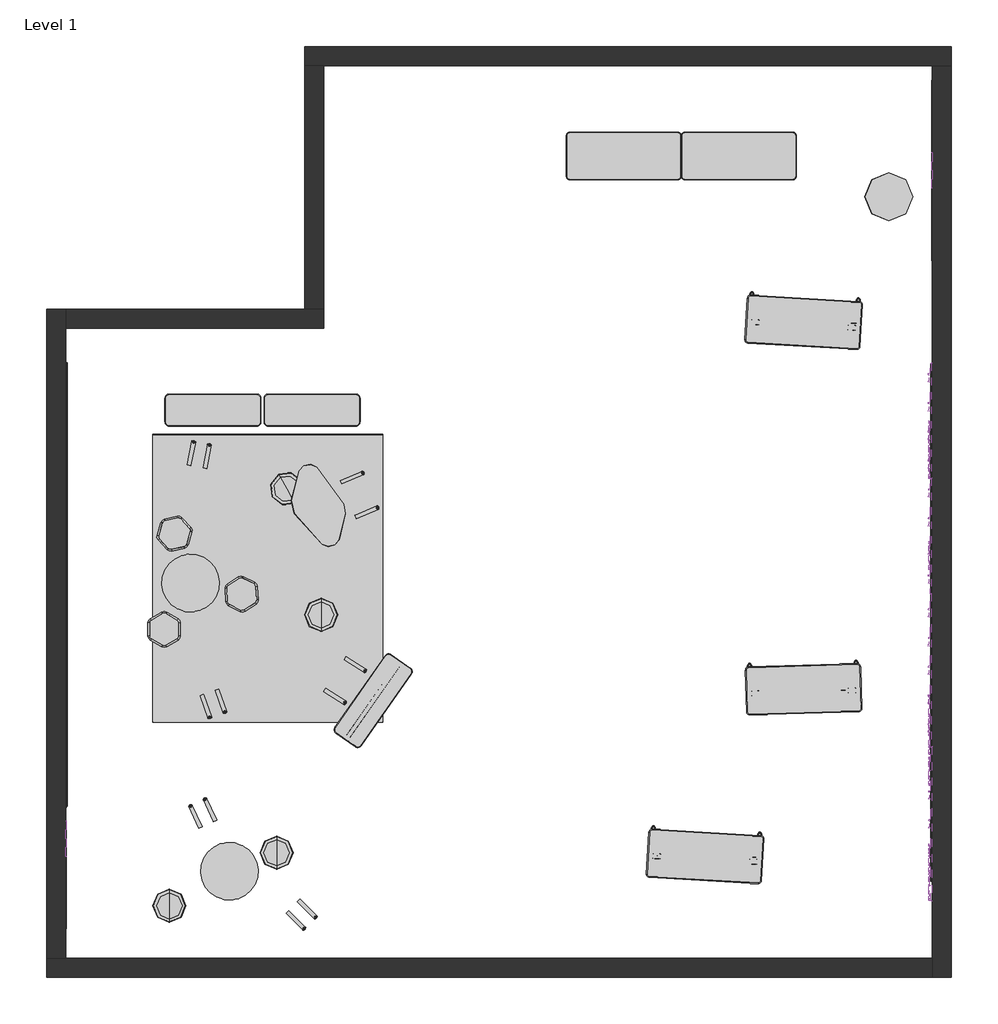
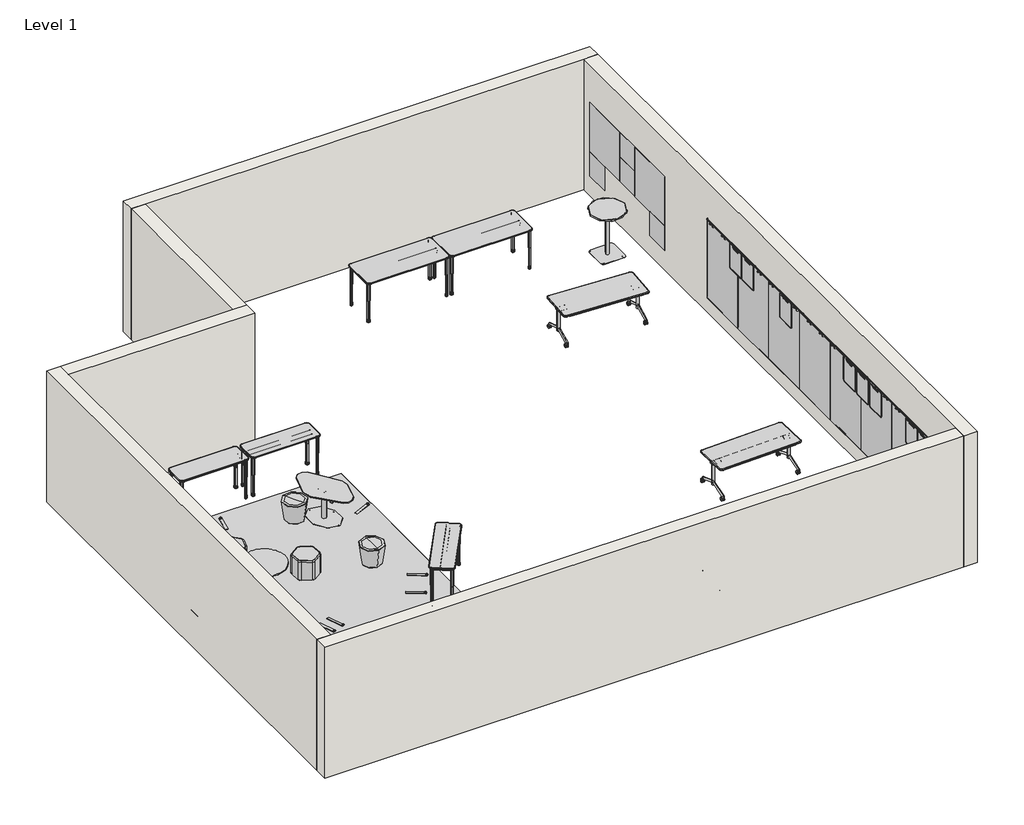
# One storey, incomplete: 60 furniture elements, 6 walls.
"""IFC4 building model written with IfcOpenShell, lengths in millimetres."""

from ifc_helpers import new_model, si_unit, origin, origin_with_axes, place, context, project, spatial, polyline, outline, extrude, faceted_brep, transform, mapped, element, save
from components import furniture_a024421f, furniture_88b691dc, furniture_9e63f0ef, furniture_12ft_x_15ft_39e2fe84, furniture_30dia_f6c6dedf, furniture_f241dce0, furniture_60w_86c895c0, furniture_60w_a7632f70, furniture_60w_52230fc8, furniture_72w_ccfdfc9f, furniture_72w_c9b032af, furniture_72w_486bea29, double_ea325dfb, large_square_09cbe10d, ottoman_1566a61f, polyvision_accessory_board_flow_frameless_ff3bc2d3, polyvision_accessory_board_flow_frameless_59350ed7, polyvision_accessory_board_flow_frameless_2d1106f9, single_6dff62dc, single_8f184688, small_square_b37b69ca, steelcase_am_accessory_board_personalwhiteboard_660ad885, steelcase_am_accessory_board_walltrack_6ft_874cfd16, steelcase_am_accessory_board_walltrack_8ft_30a8a2b9, stool_93acecdb

model = new_model("IFC4")

# Units and contexts
model_context = context("Model", 3, world=origin())
ifc_project = project(units=[si_unit("LENGTHUNIT", "METRE", prefix="MILLI")], contexts=[model_context])

# Site, building, storey
site = spatial("IfcSite", under=ifc_project)
building = spatial("IfcBuilding", under=site)
storey = spatial("IfcBuildingStorey", under=building, Name="Level 1", Elevation=0.0)

# Furniture
placement = place(None, origin())
furniture_shape = furniture_a024421f(model_context)
furniture_2_shape = furniture_88b691dc(model_context)
element("IfcFurniture", 1, ObjectType="SmithSystem_AM_Table_Education_Elemental_NestAndFold_30D : 30D x 72W", at=placement, inside=storey, context=model_context, shape_type="MappedRepresentation", body=[
    mapped(furniture_shape, transform((-34523.3783548, -123922.868873, 0.0), x_axis=(0.9983033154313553, -0.05822791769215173, 0.0), y_axis=(0.05822791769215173, 0.9983033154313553, 0.0), z_axis=(0.0, 0.0, 1.0))),
    mapped(furniture_2_shape, transform((-34523.3783548, -123922.868873, 0.0), x_axis=(0.9983033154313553, -0.05822791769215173, 0.0), y_axis=(0.05822791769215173, 0.9983033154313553, 0.0), z_axis=(0.0, 0.0, 1.0))),
])
element("IfcFurniture", 2, ObjectType="SmithSystem_AM_Table_Education_Elemental_NestAndFold_30D : 30D x 72W", at=placement, inside=storey, context=model_context, shape_type="MappedRepresentation", body=[
    mapped(furniture_shape, transform((-34558.4775542, -129834.7711895, 0.0), x_axis=(0.9995793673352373, 0.029001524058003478, 0.0), y_axis=(-0.029001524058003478, 0.9995793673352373, 0.0), z_axis=(0.0, 0.0, 1.0))),
    mapped(furniture_2_shape, transform((-34558.4775542, -129834.7711895, 0.0), x_axis=(0.9995793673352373, 0.029001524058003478, 0.0), y_axis=(-0.029001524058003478, 0.9995793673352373, 0.0), z_axis=(0.0, 0.0, 1.0))),
])
element("IfcFurniture", 3, ObjectType="SmithSystem_AM_Table_Education_Elemental_NestAndFold_30D : 30D x 72W", at=placement, inside=storey, context=model_context, shape_type="MappedRepresentation", body=[
    mapped(furniture_shape, transform((-36088.8899738, -132410.3183376, 0.0), x_axis=(0.9983033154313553, -0.05822791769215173, 0.0), y_axis=(0.05822791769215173, 0.9983033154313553, 0.0), z_axis=(0.0, 0.0, 1.0))),
    mapped(furniture_2_shape, transform((-36088.8899738, -132410.3183376, 0.0), x_axis=(0.9983033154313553, -0.05822791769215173, 0.0), y_axis=(0.05822791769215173, 0.9983033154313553, 0.0), z_axis=(0.0, 0.0, 1.0))),
])
furniture_3_shape = furniture_9e63f0ef(model_context)
element("IfcFurniture", 4, ObjectType="SmithSystem_AM_Table_Education_Flowform_LearnLounge_OffsetRectangle : NoPower", at=placement, inside=storey, context=model_context, shape_type="MappedRepresentation", body=[
    mapped(furniture_3_shape, transform((-41350.8761529, -127273.2918155, 0.0), x_axis=(-0.309016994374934, 0.9510565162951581, 0.0), y_axis=(-0.9510565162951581, -0.309016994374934, 0.0), z_axis=(0.0, 0.0, 1.0))),
])
furniture_12ft_x_15ft_shape = furniture_12ft_x_15ft_39e2fe84(model_context)
element("IfcFurniture", 5, ObjectType="Coalesse_AM_Accessory_Rug_Nanimarquina_Mesh : 12ft x 15ft", at=placement, inside=storey, context=model_context, shape_type="MappedRepresentation", body=[
    mapped(furniture_12ft_x_15ft_shape, transform((-43175.961903, -130046.8984329, 0.0), x_axis=(0.0, 1.0, 0.0), y_axis=(-1.0, 0.0, 0.0), z_axis=(0.0, 0.0, 1.0))),
])
furniture_30dia_shape = furniture_30dia_f6c6dedf(model_context)
element("IfcFurniture", 6, ObjectType="Steelcase_AM_Table_Conference_SimpleTables_CafeHeight_Round : 30Dia", at=placement, inside=storey, context=model_context, shape_type="MappedRepresentation", body=[
    mapped(furniture_30dia_shape, transform((-32277.5097241, -122362.2697029, 0.0), x_axis=(1.0, 0.0, 0.0), y_axis=(0.0, 1.0, 0.0), z_axis=(0.0, 0.0, 1.0))),
])
furniture_4_shape = furniture_f241dce0(model_context)
element("IfcFurniture", 7, ObjectType="Editable3DSnapper : 36\" x 36\"", at=placement, inside=storey, context=model_context, shape_type="MappedRepresentation", body=[
    mapped(furniture_4_shape, transform((-43071.2715886, -133431.0343964, 403.9285785), x_axis=(0.9984032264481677, 0.05648891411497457, 0.0), y_axis=(-0.05648891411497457, 0.9984032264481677, 0.0), z_axis=(0.0, 0.0, 1.0))),
])
element("IfcFurniture", 8, ObjectType="Editable3DSnapper : 36\" x 36\"", at=placement, inside=storey, context=model_context, shape_type="MappedRepresentation", body=[
    mapped(furniture_4_shape, transform((-43688.4246596, -128852.7499414, 403.9285785), x_axis=(0.9984032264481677, 0.05648891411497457, 0.0), y_axis=(-0.05648891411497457, 0.9984032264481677, 0.0), z_axis=(0.0, 0.0, 1.0))),
])
furniture_60w_shape = furniture_60w_86c895c0(model_context)
furniture_60w_2_shape = furniture_60w_a7632f70(model_context)
furniture_60w_3_shape = furniture_60w_52230fc8(model_context)
element("IfcFurniture", 9, ObjectType="SmithSystem_AM_Table_Education_Interchange_Activity_20D : 60W", at=placement, inside=storey, context=model_context, shape_type="MappedRepresentation", body=[
    mapped(furniture_60w_shape, transform((-40701.7308167, -131139.6032442, 0.0), x_axis=(0.573578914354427, 0.8191503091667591, 0.0), y_axis=(-0.8191503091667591, 0.573578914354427, 0.0), z_axis=(0.0, 0.0, 1.0))),
    mapped(furniture_60w_2_shape, transform((-40701.7308167, -131139.6032442, 0.0), x_axis=(0.573578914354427, 0.8191503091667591, 0.0), y_axis=(-0.8191503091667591, 0.573578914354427, 0.0), z_axis=(0.0, 0.0, 1.0))),
    mapped(furniture_60w_3_shape, transform((-40701.7308167, -131139.6032442, 0.0), x_axis=(0.573578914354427, 0.8191503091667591, 0.0), y_axis=(-0.8191503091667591, 0.573578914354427, 0.0), z_axis=(0.0, 0.0, 1.0))),
])
element("IfcFurniture", 10, ObjectType="SmithSystem_AM_Table_Education_Interchange_Activity_20D : 60W", at=placement, inside=storey, context=model_context, shape_type="MappedRepresentation", body=[
    mapped(furniture_60w_shape, transform((-42206.2756142, -126006.1884392, 0.0), x_axis=(0.9999999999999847, 1.7543499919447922e-07, 0.0), y_axis=(-1.7543499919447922e-07, 0.9999999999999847, 0.0), z_axis=(0.0, 0.0, 1.0))),
    mapped(furniture_60w_2_shape, transform((-42206.2756142, -126006.1884392, 0.0), x_axis=(0.9999999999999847, 1.7543499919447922e-07, 0.0), y_axis=(-1.7543499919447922e-07, 0.9999999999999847, 0.0), z_axis=(0.0, 0.0, 1.0))),
    mapped(furniture_60w_3_shape, transform((-42206.2756142, -126006.1884392, 0.0), x_axis=(0.9999999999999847, 1.7543499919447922e-07, 0.0), y_axis=(-1.7543499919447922e-07, 0.9999999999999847, 0.0), z_axis=(0.0, 0.0, 1.0))),
])
element("IfcFurniture", 11, ObjectType="SmithSystem_AM_Table_Education_Interchange_Activity_20D : 60W", at=placement, inside=storey, context=model_context, shape_type="MappedRepresentation", body=[
    mapped(furniture_60w_shape, transform((-43781.0756142, -126006.1884392, 0.0), x_axis=(0.9999999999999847, 1.7543499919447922e-07, 0.0), y_axis=(-1.7543499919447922e-07, 0.9999999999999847, 0.0), z_axis=(0.0, 0.0, 1.0))),
    mapped(furniture_60w_2_shape, transform((-43781.0756142, -126006.1884392, 0.0), x_axis=(0.9999999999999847, 1.7543499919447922e-07, 0.0), y_axis=(-1.7543499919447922e-07, 0.9999999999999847, 0.0), z_axis=(0.0, 0.0, 1.0))),
    mapped(furniture_60w_3_shape, transform((-43781.0756142, -126006.1884392, 0.0), x_axis=(0.9999999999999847, 1.7543499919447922e-07, 0.0), y_axis=(-1.7543499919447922e-07, 0.9999999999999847, 0.0), z_axis=(0.0, 0.0, 1.0))),
])
furniture_72w_shape = furniture_72w_ccfdfc9f(model_context)
furniture_72w_2_shape = furniture_72w_c9b032af(model_context)
furniture_72w_3_shape = furniture_72w_486bea29(model_context)
element("IfcFurniture", 12, ObjectType="SmithSystem_AM_Table_Education_Interchange_Activity_30D : 72W", at=placement, inside=storey, context=model_context, shape_type="MappedRepresentation", body=[
    mapped(furniture_72w_shape, transform((-35577.1178066, -122094.9978859, 0.0), x_axis=(1.0, 0.0, 0.0), y_axis=(0.0, 1.0, 0.0), z_axis=(0.0, 0.0, 1.0))),
    mapped(furniture_72w_2_shape, transform((-35577.1178066, -122094.9978859, 0.0), x_axis=(1.0, 0.0, 0.0), y_axis=(0.0, 1.0, 0.0), z_axis=(0.0, 0.0, 1.0))),
    mapped(furniture_72w_3_shape, transform((-35577.1178066, -122094.9978859, 0.0), x_axis=(1.0, 0.0, 0.0), y_axis=(0.0, 1.0, 0.0), z_axis=(0.0, 0.0, 1.0))),
])
element("IfcFurniture", 13, ObjectType="SmithSystem_AM_Table_Education_Interchange_Activity_30D : 72W", at=placement, inside=storey, context=model_context, shape_type="MappedRepresentation", body=[
    mapped(furniture_72w_shape, transform((-37405.9178066, -122094.9978859, 0.0), x_axis=(1.0, 0.0, 0.0), y_axis=(0.0, 1.0, 0.0), z_axis=(0.0, 0.0, 1.0))),
    mapped(furniture_72w_2_shape, transform((-37405.9178066, -122094.9978859, 0.0), x_axis=(1.0, 0.0, 0.0), y_axis=(0.0, 1.0, 0.0), z_axis=(0.0, 0.0, 1.0))),
    mapped(furniture_72w_3_shape, transform((-37405.9178066, -122094.9978859, 0.0), x_axis=(1.0, 0.0, 0.0), y_axis=(0.0, 1.0, 0.0), z_axis=(0.0, 0.0, 1.0))),
])
double_shape = double_ea325dfb(model_context)
element("IfcFurniture", 14, ObjectType="SmithSystem_AM_Seating_Education_Flowform_LearnLounge_MobileKit_Double : Double", at=placement, inside=storey, context=model_context, shape_type="MappedRepresentation", body=[
    mapped(double_shape, transform((-40744.7101465, -127120.8624061, 0.0), x_axis=(0.39095136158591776, -0.9204113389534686, 0.0), y_axis=(0.9204113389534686, 0.39095136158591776, 0.0), z_axis=(0.0, 0.0, 1.0))),
])
element("IfcFurniture", 15, ObjectType="SmithSystem_AM_Seating_Education_Flowform_LearnLounge_MobileKit_Double : Double", at=placement, inside=storey, context=model_context, shape_type="MappedRepresentation", body=[
    mapped(double_shape, transform((-40967.3627503, -130017.8480217, 0.0), x_axis=(-0.5377355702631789, -0.8431135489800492, 0.0), y_axis=(0.8431135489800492, -0.5377355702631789, 0.0), z_axis=(0.0, 0.0, 1.0))),
])
large_square_shape = large_square_09cbe10d(model_context)
element("IfcFurniture", 16, ObjectType="PolyVision_Accessory_Board_Motif : Large Square", at=placement, inside=storey, context=model_context, shape_type="MappedRepresentation", body=[
    mapped(large_square_shape, transform((-45351.6696554, -133132.6697923, 930.8340763), x_axis=(1.0, 0.0, 0.0), y_axis=(0.0, 1.0, 0.0), z_axis=(0.0, 0.0, 1.0))),
])
element("IfcFurniture", 17, ObjectType="PolyVision_Accessory_Board_Motif : Large Square", at=placement, inside=storey, context=model_context, shape_type="MappedRepresentation", body=[
    mapped(large_square_shape, transform((-31595.7097241, -121370.9876579, 930.8340763), x_axis=(-1.0, 0.0, 0.0), y_axis=(0.0, -1.0, 0.0), z_axis=(0.0, 0.0, 1.0))),
])
element("IfcFurniture", 18, ObjectType="PolyVision_Accessory_Board_Motif : Large Square", at=placement, inside=storey, context=model_context, shape_type="MappedRepresentation", body=[
    mapped(large_square_shape, transform((-31595.7097241, -123092.9876579, 930.8340763), x_axis=(-1.0, 0.0, 0.0), y_axis=(0.0, -1.0, 0.0), z_axis=(0.0, 0.0, 1.0))),
])
ottoman_shape = ottoman_1566a61f(model_context)
element("IfcFurniture", 19, ObjectType="SmithSystem_AM_Seating_Education_Flowform_SoftSeating_Ottoman_Hexagon : Ottoman", at=placement, inside=storey, context=model_context, shape_type="MappedRepresentation", body=[
    mapped(ottoman_shape, transform((-43794.2476062, -129236.3954095, 0.0), x_axis=(1.0, 0.0, 0.0), y_axis=(0.0, 1.0, 0.0), z_axis=(0.0, 0.0, 1.0))),
])
element("IfcFurniture", 20, ObjectType="SmithSystem_AM_Seating_Education_Flowform_SoftSeating_Ottoman_Hexagon : Ottoman", at=placement, inside=storey, context=model_context, shape_type="MappedRepresentation", body=[
    mapped(ottoman_shape, transform((-42563.1847936, -128674.311676, 0.0), x_axis=(0.9984032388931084, 0.05648869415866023, 0.0), y_axis=(-0.05648869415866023, 0.9984032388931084, 0.0), z_axis=(0.0, 0.0, 1.0))),
])
element("IfcFurniture", 21, ObjectType="SmithSystem_AM_Seating_Education_Flowform_SoftSeating_Ottoman_Hexagon : Ottoman", at=placement, inside=storey, context=model_context, shape_type="MappedRepresentation", body=[
    mapped(ottoman_shape, transform((-43629.9969648, -127715.6087144, 0.0), x_axis=(0.956304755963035, -0.29237170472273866, 0.0), y_axis=(0.29237170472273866, 0.956304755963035, 0.0), z_axis=(0.0, 0.0, 1.0))),
])
polyvision_accessory_board_flow_frameless_shape = polyvision_accessory_board_flow_frameless_ff3bc2d3(model_context)
element("IfcFurniture", 22, ObjectType="PolyVision_Accessory_Board_Flow_Frameless : 47W x 72H (1185 W x 1830 H)", at=placement, inside=storey, context=model_context, shape_type="MappedRepresentation", body=[
    mapped(polyvision_accessory_board_flow_frameless_shape, transform((-31603.6162388, -125603.495818, 355.6), x_axis=(0.0, -1.0, 0.0), y_axis=(1.0, 0.0, 0.0), z_axis=(0.0, 0.0, 1.0))),
])
polyvision_accessory_board_flow_frameless_2_shape = polyvision_accessory_board_flow_frameless_59350ed7(model_context)
element("IfcFurniture", 23, ObjectType="PolyVision_Accessory_Board_Flow_Frameless : 47W x 72H (1185 W x 1830 H)", at=placement, inside=storey, context=model_context, shape_type="MappedRepresentation", body=[
    mapped(polyvision_accessory_board_flow_frameless_2_shape, transform((-31603.6162388, -126777.6302109, 355.6), x_axis=(0.0, -1.0, 0.0), y_axis=(1.0, 0.0, 0.0), z_axis=(0.0, 0.0, 1.0))),
])
element("IfcFurniture", 24, ObjectType="PolyVision_Accessory_Board_Flow_Frameless : 47W x 72H (1185 W x 1830 H)", at=placement, inside=storey, context=model_context, shape_type="MappedRepresentation", body=[
    mapped(polyvision_accessory_board_flow_frameless_2_shape, transform((-31603.6162388, -127951.7646037, 355.6), x_axis=(0.0, -1.0, 0.0), y_axis=(1.0, 0.0, 0.0), z_axis=(0.0, 0.0, 1.0))),
])
element("IfcFurniture", 25, ObjectType="PolyVision_Accessory_Board_Flow_Frameless : 47W x 72H (1185 W x 1830 H)", at=placement, inside=storey, context=model_context, shape_type="MappedRepresentation", body=[
    mapped(polyvision_accessory_board_flow_frameless_2_shape, transform((-31603.6162388, -129125.8989966, 355.6), x_axis=(0.0, -1.0, 0.0), y_axis=(1.0, 0.0, 0.0), z_axis=(0.0, 0.0, 1.0))),
])
element("IfcFurniture", 26, ObjectType="PolyVision_Accessory_Board_Flow_Frameless : 47W x 72H (1185 W x 1830 H)", at=placement, inside=storey, context=model_context, shape_type="MappedRepresentation", body=[
    mapped(polyvision_accessory_board_flow_frameless_2_shape, transform((-31603.6162388, -130300.0333895, 355.6), x_axis=(0.0, -1.0, 0.0), y_axis=(1.0, 0.0, 0.0), z_axis=(0.0, 0.0, 1.0))),
])
element("IfcFurniture", 27, ObjectType="PolyVision_Accessory_Board_Flow_Frameless : 47W x 72H (1185 W x 1830 H)", at=placement, inside=storey, context=model_context, shape_type="MappedRepresentation", body=[
    mapped(polyvision_accessory_board_flow_frameless_2_shape, transform((-31603.6162388, -131474.1677824, 355.6), x_axis=(0.0, -1.0, 0.0), y_axis=(1.0, 0.0, 0.0), z_axis=(0.0, 0.0, 1.0))),
])
element("IfcFurniture", 28, ObjectType="PolyVision_Accessory_Board_Flow_Frameless : 47W x 72H (1185 W x 1830 H)", at=placement, inside=storey, context=model_context, shape_type="MappedRepresentation", body=[
    mapped(polyvision_accessory_board_flow_frameless_2_shape, transform((-45343.1334262, -131457.7286422, 355.6), x_axis=(0.0, 1.0, 0.0), y_axis=(-1.0, 0.0, 0.0), z_axis=(0.0, 0.0, 1.0))),
])
element("IfcFurniture", 29, ObjectType="PolyVision_Accessory_Board_Flow_Frameless : 47W x 72H (1185 W x 1830 H)", at=placement, inside=storey, context=model_context, shape_type="MappedRepresentation", body=[
    mapped(polyvision_accessory_board_flow_frameless_2_shape, transform((-45343.1334262, -130283.5942493, 355.6), x_axis=(0.0, 1.0, 0.0), y_axis=(-1.0, 0.0, 0.0), z_axis=(0.0, 0.0, 1.0))),
])
element("IfcFurniture", 30, ObjectType="PolyVision_Accessory_Board_Flow_Frameless : 47W x 72H (1185 W x 1830 H)", at=placement, inside=storey, context=model_context, shape_type="MappedRepresentation", body=[
    mapped(polyvision_accessory_board_flow_frameless_2_shape, transform((-45343.1334262, -129109.4598565, 355.6), x_axis=(0.0, 1.0, 0.0), y_axis=(-1.0, 0.0, 0.0), z_axis=(0.0, 0.0, 1.0))),
])
element("IfcFurniture", 31, ObjectType="PolyVision_Accessory_Board_Flow_Frameless : 47W x 72H (1185 W x 1830 H)", at=placement, inside=storey, context=model_context, shape_type="MappedRepresentation", body=[
    mapped(polyvision_accessory_board_flow_frameless_2_shape, transform((-45343.1334262, -127935.3254636, 355.6), x_axis=(0.0, 1.0, 0.0), y_axis=(-1.0, 0.0, 0.0), z_axis=(0.0, 0.0, 1.0))),
])
element("IfcFurniture", 32, ObjectType="PolyVision_Accessory_Board_Flow_Frameless : 47W x 72H (1185 W x 1830 H)", at=placement, inside=storey, context=model_context, shape_type="MappedRepresentation", body=[
    mapped(polyvision_accessory_board_flow_frameless_2_shape, transform((-45343.1334262, -126761.1910707, 355.6), x_axis=(0.0, 1.0, 0.0), y_axis=(-1.0, 0.0, 0.0), z_axis=(0.0, 0.0, 1.0))),
])
polyvision_accessory_board_flow_frameless_3_shape = polyvision_accessory_board_flow_frameless_2d1106f9(model_context)
element("IfcFurniture", 33, ObjectType="PolyVision_Accessory_Board_Flow_Frameless : 47W x 72H (1185 W x 1830 H)", at=placement, inside=storey, context=model_context, shape_type="MappedRepresentation", body=[
    mapped(polyvision_accessory_board_flow_frameless_3_shape, transform((-31603.6162388, -132648.3021752, 355.6), x_axis=(0.0, -1.0, 0.0), y_axis=(1.0, 0.0, 0.0), z_axis=(0.0, 0.0, 1.0))),
])
element("IfcFurniture", 34, ObjectType="PolyVision_Accessory_Board_Flow_Frameless : 47W x 72H (1185 W x 1830 H)", at=placement, inside=storey, context=model_context, shape_type="MappedRepresentation", body=[
    mapped(polyvision_accessory_board_flow_frameless_3_shape, transform((-45343.1334262, -125587.0566779, 355.6), x_axis=(0.0, 1.0, 0.0), y_axis=(-1.0, 0.0, 0.0), z_axis=(0.0, 0.0, 1.0))),
])
single_shape = single_6dff62dc(model_context)
element("IfcFurniture", 35, ObjectType="SmithSystem_AM_Seating_Education_Flowform_LearnLounge_MobileKit_Single : Single", at=placement, inside=storey, context=model_context, shape_type="MappedRepresentation", body=[
    mapped(single_shape, transform((-43175.0914362, -132172.9793308, 0.0), x_axis=(0.9063078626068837, 0.4226180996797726, 0.0), y_axis=(-0.4226180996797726, 0.9063078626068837, 0.0), z_axis=(0.0, 0.0, 1.0))),
])
single_2_shape = single_8f184688(model_context)
element("IfcFurniture", 36, ObjectType="SmithSystem_AM_Seating_Education_Flowform_LearnLounge_MobileKit_Single : Single", at=placement, inside=storey, context=model_context, shape_type="MappedRepresentation", body=[
    mapped(single_2_shape, transform((-41623.0620983, -133757.1323491, 0.0), x_axis=(0.7071069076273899, 0.7071066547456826, 0.0), y_axis=(-0.7071066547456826, 0.7071069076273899, 0.0), z_axis=(0.0, 0.0, 1.0))),
])
element("IfcFurniture", 37, ObjectType="SmithSystem_AM_Seating_Education_Flowform_LearnLounge_MobileKit_Single : Single", at=placement, inside=storey, context=model_context, shape_type="MappedRepresentation", body=[
    mapped(single_2_shape, transform((-43018.6235212, -130400.1897806, 0.0), x_axis=(0.9413731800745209, 0.3373670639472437, 0.0), y_axis=(-0.3373670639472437, 0.9413731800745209, 0.0), z_axis=(0.0, 0.0, 1.0))),
])
element("IfcFurniture", 38, ObjectType="SmithSystem_AM_Seating_Education_Flowform_LearnLounge_MobileKit_Single : Single", at=placement, inside=storey, context=model_context, shape_type="MappedRepresentation", body=[
    mapped(single_2_shape, transform((-43239.9720149, -126481.0516208, 0.0), x_axis=(-0.9822140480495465, 0.1877646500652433, 0.0), y_axis=(-0.1877646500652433, -0.9822140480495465, 0.0), z_axis=(0.0, 0.0, 1.0))),
])
small_square_shape = small_square_b37b69ca(model_context)
element("IfcFurniture", 39, ObjectType="PolyVision_Accessory_Board_Motif : Small Square", at=placement, inside=storey, context=model_context, shape_type="MappedRepresentation", body=[
    mapped(small_square_shape, transform((-45351.6696554, -132271.6697923, 1508.8340763), x_axis=(1.0, 0.0, 0.0), y_axis=(0.0, 1.0, 0.0), z_axis=(0.0, 0.0, 1.0))),
])
element("IfcFurniture", 40, ObjectType="PolyVision_Accessory_Board_Motif : Small Square", at=placement, inside=storey, context=model_context, shape_type="MappedRepresentation", body=[
    mapped(small_square_shape, transform((-45351.6696554, -132271.6697923, 936.8340763), x_axis=(1.0, 0.0, 0.0), y_axis=(0.0, 1.0, 0.0), z_axis=(0.0, 0.0, 1.0))),
])
element("IfcFurniture", 41, ObjectType="PolyVision_Accessory_Board_Motif : Small Square", at=placement, inside=storey, context=model_context, shape_type="MappedRepresentation", body=[
    mapped(small_square_shape, transform((-31595.7097241, -122231.9876579, 1508.8340763), x_axis=(-1.0, 0.0, 0.0), y_axis=(0.0, -1.0, 0.0), z_axis=(0.0, 0.0, 1.0))),
])
element("IfcFurniture", 42, ObjectType="PolyVision_Accessory_Board_Motif : Small Square", at=placement, inside=storey, context=model_context, shape_type="MappedRepresentation", body=[
    mapped(small_square_shape, transform((-31595.7097241, -122231.9876579, 936.8340763), x_axis=(-1.0, 0.0, 0.0), y_axis=(0.0, -1.0, 0.0), z_axis=(0.0, 0.0, 1.0))),
])
element("IfcFurniture", 43, ObjectType="PolyVision_Accessory_Board_Motif : Small Square", at=placement, inside=storey, context=model_context, shape_type="MappedRepresentation", body=[
    mapped(small_square_shape, transform((-31595.7097241, -121081.9876579, 358.8340763), x_axis=(-1.0, 0.0, 0.0), y_axis=(0.0, -1.0, 0.0), z_axis=(0.0, 0.0, 1.0))),
])
element("IfcFurniture", 44, ObjectType="PolyVision_Accessory_Board_Motif : Small Square", at=placement, inside=storey, context=model_context, shape_type="MappedRepresentation", body=[
    mapped(small_square_shape, transform((-31595.7097241, -123381.9876579, 358.8340763), x_axis=(-1.0, 0.0, 0.0), y_axis=(0.0, -1.0, 0.0), z_axis=(0.0, 0.0, 1.0))),
])
steelcase_am_accessory_board_personalwhiteboard_shape = steelcase_am_accessory_board_personalwhiteboard_660ad885(model_context)
element("IfcFurniture", 45, ObjectType="Steelcase_AM_Accessory_Board_PersonalWhiteboard : 18H x 23W", at=placement, inside=storey, context=model_context, shape_type="MappedRepresentation", body=[
    mapped(steelcase_am_accessory_board_personalwhiteboard_shape, transform((-31575.4983905, -126169.9998835, 1543.05), x_axis=(0.0, -1.0, 0.0), y_axis=(1.0, 0.0, 0.0), z_axis=(0.0, 0.0, 1.0))),
])
element("IfcFurniture", 46, ObjectType="Steelcase_AM_Accessory_Board_PersonalWhiteboard : 18H x 23W", at=placement, inside=storey, context=model_context, shape_type="MappedRepresentation", body=[
    mapped(steelcase_am_accessory_board_personalwhiteboard_shape, transform((-31575.4983905, -126627.7078835, 1544.4383228), x_axis=(0.0, -1.0, 0.0), y_axis=(1.0, 0.0, 0.0), z_axis=(0.0, 0.0, 1.0))),
])
element("IfcFurniture", 47, ObjectType="Steelcase_AM_Accessory_Board_PersonalWhiteboard : 18H x 23W", at=placement, inside=storey, context=model_context, shape_type="MappedRepresentation", body=[
    mapped(steelcase_am_accessory_board_personalwhiteboard_shape, transform((-31575.4983905, -128078.9368823, 1544.4383228), x_axis=(0.0, -1.0, 0.0), y_axis=(1.0, 0.0, 0.0), z_axis=(0.0, 0.0, 1.0))),
])
element("IfcFurniture", 48, ObjectType="Steelcase_AM_Accessory_Board_PersonalWhiteboard : 18H x 23W", at=placement, inside=storey, context=model_context, shape_type="MappedRepresentation", body=[
    mapped(steelcase_am_accessory_board_personalwhiteboard_shape, transform((-31575.4983905, -130517.3368823, 1544.4383228), x_axis=(0.0, -1.0, 0.0), y_axis=(1.0, 0.0, 0.0), z_axis=(0.0, 0.0, 1.0))),
])
element("IfcFurniture", 49, ObjectType="Steelcase_AM_Accessory_Board_PersonalWhiteboard : 18H x 23W", at=placement, inside=storey, context=model_context, shape_type="MappedRepresentation", body=[
    mapped(steelcase_am_accessory_board_personalwhiteboard_shape, transform((-31575.4983905, -131012.6368823, 1544.4383228), x_axis=(0.0, -1.0, 0.0), y_axis=(1.0, 0.0, 0.0), z_axis=(0.0, 0.0, 1.0))),
])
element("IfcFurniture", 50, ObjectType="Steelcase_AM_Accessory_Board_PersonalWhiteboard : 18H x 23W", at=placement, inside=storey, context=model_context, shape_type="MappedRepresentation", body=[
    mapped(steelcase_am_accessory_board_personalwhiteboard_shape, transform((-31575.4983905, -131507.9368823, 1544.4383228), x_axis=(0.0, -1.0, 0.0), y_axis=(1.0, 0.0, 0.0), z_axis=(0.0, 0.0, 1.0))),
])
element("IfcFurniture", 51, ObjectType="Steelcase_AM_Accessory_Board_PersonalWhiteboard : 18H x 23W", at=placement, inside=storey, context=model_context, shape_type="MappedRepresentation", body=[
    mapped(steelcase_am_accessory_board_personalwhiteboard_shape, transform((-31575.4983905, -132887.7918835, 1544.4383228), x_axis=(0.0, -1.0, 0.0), y_axis=(1.0, 0.0, 0.0), z_axis=(0.0, 0.0, 1.0))),
])
element("IfcFurniture", 52, ObjectType="Steelcase_AM_Accessory_Board_PersonalWhiteboard : 18H x 23W", at=placement, inside=storey, context=model_context, shape_type="MappedRepresentation", body=[
    mapped(steelcase_am_accessory_board_personalwhiteboard_shape, transform((-31575.4983905, -133336.7368823, 1544.4383228), x_axis=(0.0, -1.0, 0.0), y_axis=(1.0, 0.0, 0.0), z_axis=(0.0, 0.0, 1.0))),
])
steelcase_am_accessory_board_walltrack_6ft_shape = steelcase_am_accessory_board_walltrack_6ft_874cfd16(model_context)
element("IfcFurniture", 53, ObjectType="Steelcase_AM_Accessory_Board_WallTrack : 6ft", at=placement, inside=storey, context=model_context, shape_type="MappedRepresentation", body=[
    mapped(steelcase_am_accessory_board_walltrack_6ft_shape, transform((-31540.6303241, -125636.8540068, 1564.4938088), x_axis=(0.0, -1.0, 0.0), y_axis=(1.0, 0.0, 0.0), z_axis=(0.0, 0.0, 1.0))),
])
element("IfcFurniture", 54, ObjectType="Steelcase_AM_Accessory_Board_WallTrack : 6ft", at=placement, inside=storey, context=model_context, shape_type="MappedRepresentation", body=[
    mapped(steelcase_am_accessory_board_walltrack_6ft_shape, transform((-31540.6303241, -127465.6540068, 1564.4938088), x_axis=(0.0, -1.0, 0.0), y_axis=(1.0, 0.0, 0.0), z_axis=(0.0, 0.0, 1.0))),
])
steelcase_am_accessory_board_walltrack_8ft_shape = steelcase_am_accessory_board_walltrack_8ft_30a8a2b9(model_context)
element("IfcFurniture", 55, ObjectType="Steelcase_AM_Accessory_Board_WallTrack : 8ft", at=placement, inside=storey, context=model_context, shape_type="MappedRepresentation", body=[
    mapped(steelcase_am_accessory_board_walltrack_8ft_shape, transform((-31540.6303241, -129599.2540068, 1564.4938088), x_axis=(0.0, -1.0, 0.0), y_axis=(1.0, 0.0, 0.0), z_axis=(0.0, 0.0, 1.0))),
])
element("IfcFurniture", 56, ObjectType="Steelcase_AM_Accessory_Board_WallTrack : 8ft", at=placement, inside=storey, context=model_context, shape_type="MappedRepresentation", body=[
    mapped(steelcase_am_accessory_board_walltrack_8ft_shape, transform((-31534.2803241, -132037.384144, 1564.4938088), x_axis=(0.0, -1.0, 0.0), y_axis=(1.0, 0.0, 0.0), z_axis=(0.0, 0.0, 1.0))),
])
stool_shape = stool_93acecdb(model_context)
element("IfcFurniture", 57, ObjectType="SmithSystem_AM_Seating_Education_Flowform_TaperedCylinderStool : Stool", at=placement, inside=storey, context=model_context, shape_type="MappedRepresentation", body=[
    mapped(stool_shape, transform((-42007.4862013, -132785.3497805, 0.0), x_axis=(1.0, 0.0, 0.0), y_axis=(0.0, 1.0, 0.0), z_axis=(0.0, 0.0, 1.0))),
])
element("IfcFurniture", 58, ObjectType="SmithSystem_AM_Seating_Education_Flowform_TaperedCylinderStool : Stool", at=placement, inside=storey, context=model_context, shape_type="MappedRepresentation", body=[
    mapped(stool_shape, transform((-43712.2610034, -133628.7977391, 0.0), x_axis=(1.0, 0.0, 0.0), y_axis=(0.0, 1.0, 0.0), z_axis=(0.0, 0.0, 1.0))),
])
element("IfcFurniture", 59, ObjectType="SmithSystem_AM_Seating_Education_Flowform_TaperedCylinderStool : Stool", at=placement, inside=storey, context=model_context, shape_type="MappedRepresentation", body=[
    mapped(stool_shape, transform((-41300.4202054, -129005.5949644, 0.0), x_axis=(1.0, 0.0, 0.0), y_axis=(0.0, 1.0, 0.0), z_axis=(0.0, 0.0, 1.0))),
])
element("IfcFurniture", 60, ObjectType="SmithSystem_AM_Seating_Education_Flowform_TaperedCylinderStool : Stool", at=placement, inside=storey, context=model_context, shape_type="MappedRepresentation", body=[
    mapped(stool_shape, transform((-41848.5957192, -127001.5676388, 0.0), x_axis=(0.8746197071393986, 0.48480962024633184, 0.0), y_axis=(-0.48480962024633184, 0.8746197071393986, 0.0), z_axis=(0.0, 0.0, 1.0))),
])

# Walls
element("IfcWall", 61, ObjectType="12in", at=placement, inside=storey, context=model_context, shape_type="Brep", body=[
    faceted_brep([(-41561.920921, -120279.4697029, 0.0), (-41257.120921, -120279.4697029, 0.0), (-31591.7097241, -120279.4697029, 0.0), (-31286.9097241, -120279.4697029, 0.0), (-31286.9097241, -120279.4697029, 3048.0), (-31591.7097241, -120279.4697029, 3048.0), (-41257.120921, -120279.4697029, 3048.0), (-41561.920921, -120279.4697029, 3048.0), (-41561.920921, -119974.6697029, 0.0), (-41561.920921, -119974.6697029, 3048.0), (-31286.9097241, -119974.6697029, 3048.0), (-31286.9097241, -119974.6697029, 0.0)], [[[0, 1, 2, 3, 4, 5, 6, 7]], [[8, 9, 10, 11]], [[3, 2, 1, 0, 8, 11]], [[7, 6, 5, 4, 10, 9]], [[4, 3, 11, 10]], [[0, 7, 9, 8]]]),
])
element("IfcWall", 62, ObjectType="12in", at=placement, inside=storey, context=model_context, shape_type="Brep", body=[
    faceted_brep([(-31591.7097241, -120279.4697029, 0.0), (-31591.7097241, -134462.1972156, 0.0), (-31591.7097241, -134766.9972156, 0.0), (-31591.7097241, -134766.9972156, 3048.0), (-31591.7097241, -134462.1972156, 3048.0), (-31591.7097241, -120279.4697029, 3048.0), (-31286.9097241, -120279.4697029, 0.0), (-31286.9097241, -120279.4697029, 3048.0), (-31286.9097241, -134766.9972156, 3048.0), (-31286.9097241, -134766.9972156, 0.0)], [[[0, 1, 2, 3, 4, 5]], [[6, 7, 8, 9]], [[2, 1, 0, 6, 9]], [[5, 4, 3, 8, 7]], [[0, 5, 7, 6]], [[3, 2, 9, 8]]]),
])
element("IfcWall", 63, ObjectType="12in", at=placement, inside=storey, context=model_context, shape_type="Brep", body=[
    faceted_brep([(-31591.7097241, -134462.1972156, 0.0), (-45358.5097241, -134462.1972156, 0.0), (-45663.3097241, -134462.1972156, 0.0), (-45663.3097241, -134462.1972156, 3048.0), (-45358.5097241, -134462.1972156, 3048.0), (-31591.7097241, -134462.1972156, 3048.0), (-31591.7097241, -134766.9972156, 0.0), (-31591.7097241, -134766.9972156, 3048.0), (-45663.3097241, -134766.9972156, 3048.0), (-45663.3097241, -134766.9972156, 0.0)], [[[0, 1, 2, 3, 4, 5]], [[6, 7, 8, 9]], [[2, 1, 0, 6, 9]], [[5, 4, 3, 8, 7]], [[0, 5, 7, 6]], [[3, 2, 9, 8]]]),
])
element("IfcWall", 64, ObjectType="12in", at=placement, inside=storey, context=model_context, shape_type="Brep", body=[
    faceted_brep([(-45358.5097241, -134462.1972156, 0.0), (-45358.5097241, -124454.5972156, 0.0), (-45358.5097241, -124149.7972156, 0.0), (-45358.5097241, -124149.7972156, 3048.0), (-45358.5097241, -124454.5972156, 3048.0), (-45358.5097241, -134462.1972156, 3048.0), (-45663.3097241, -134462.1972156, 0.0), (-45663.3097241, -134462.1972156, 3048.0), (-45663.3097241, -124149.7972156, 3048.0), (-45663.3097241, -124149.7972156, 0.0)], [[[0, 1, 2, 3, 4, 5]], [[6, 7, 8, 9]], [[2, 1, 0, 6, 9]], [[5, 4, 3, 8, 7]], [[0, 5, 7, 6]], [[3, 2, 9, 8]]]),
])
element("IfcWall", 65, ObjectType="12in", at=placement, inside=storey, context=model_context, shape_type="Brep", body=[
    faceted_brep([(-45358.5097241, -124454.5972156, 0.0), (-41257.120921, -124454.5972156, 0.0), (-41257.120921, -124454.5972156, 3048.0), (-45358.5097241, -124454.5972156, 3048.0), (-45358.5097241, -124149.7972156, 0.0), (-45358.5097241, -124149.7972156, 3048.0), (-41561.920921, -124149.7972156, 3048.0), (-41257.120921, -124149.7972156, 3048.0), (-41257.120921, -124149.7972156, 0.0), (-41561.920921, -124149.7972156, 0.0)], [[[0, 1, 2, 3]], [[4, 5, 6, 7, 8, 9]], [[1, 0, 4, 9, 8]], [[3, 2, 7, 6, 5]], [[0, 3, 5, 4]], [[2, 1, 8, 7]]]),
])
element("IfcWall", 66, ObjectType="12in", at=placement, inside=storey, context=model_context, shape_type="SweptSolid", body=[
    extrude(outline(polyline([(-41257.120921, -120279.4697029), (-41257.120921, -124149.7972156), (-41561.920921, -124149.7972156), (-41561.920921, -120279.4697029), (-41257.120921, -120279.4697029)])), origin_with_axes(), (0.0, 0.0, 1.0), 3048.0),
])

save(model, "model.ifc")
